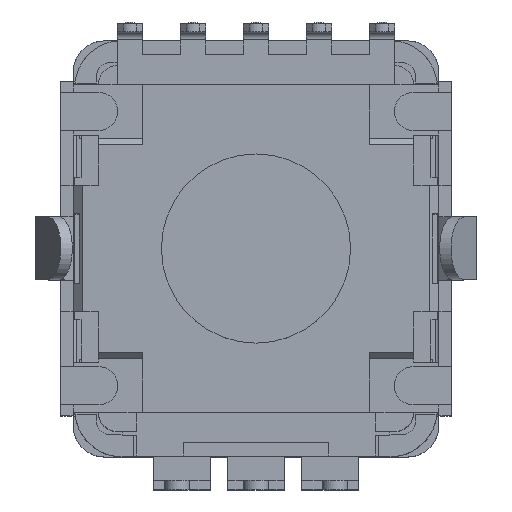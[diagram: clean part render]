
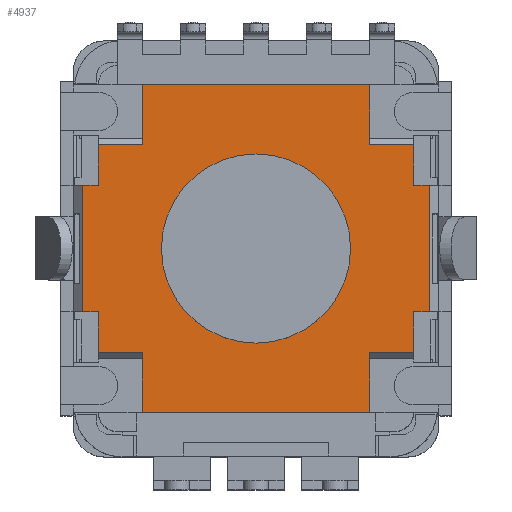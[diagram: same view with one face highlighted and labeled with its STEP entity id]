
A CAD part, top view. The second image highlights one B-rep face of the part: STEP entity #4937.
In plain terms, the highlighted planar face has unit normal (0, 0, 1).
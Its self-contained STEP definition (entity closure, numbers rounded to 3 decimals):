
#4453=CARTESIAN_POINT('',(-3.,0.,3.2));
#4454=VERTEX_POINT('',#4453);
#4455=CARTESIAN_POINT('',(0.,0.,3.2));
#4456=DIRECTION('',(0.0,0.0,-1.0));
#4457=DIRECTION('',(1.0,0.0,0.0));
#4458=AXIS2_PLACEMENT_3D('',#4455,#4456,#4457);
#4459=CIRCLE('',#4458,3.);
#4460=EDGE_CURVE('',#4454,#4454,#4459,.T.);
#4497=CARTESIAN_POINT('',(-5.5,-2.,3.2));
#4498=VERTEX_POINT('',#4497);
#4505=CARTESIAN_POINT('',(-5.5,2.,3.2));
#4506=VERTEX_POINT('',#4505);
#4507=CARTESIAN_POINT('',(-5.5,-2.,3.2));
#4508=DIRECTION('',(0.0,1.0,0.0));
#4509=VECTOR('',#4508,4.);
#4510=LINE('',#4507,#4509);
#4511=EDGE_CURVE('',#4498,#4506,#4510,.T.);
#4645=CARTESIAN_POINT('',(5.5,-2.,3.2));
#4646=VERTEX_POINT('',#4645);
#4695=CARTESIAN_POINT('',(5.5,2.,3.2));
#4696=VERTEX_POINT('',#4695);
#4703=CARTESIAN_POINT('',(5.5,2.,3.2));
#4704=DIRECTION('',(0.0,-1.0,0.0));
#4705=VECTOR('',#4704,4.0);
#4706=LINE('',#4703,#4705);
#4707=EDGE_CURVE('',#4696,#4646,#4706,.T.);
#4765=CARTESIAN_POINT('',(5.,-2.,3.2));
#4766=VERTEX_POINT('',#4765);
#4767=CARTESIAN_POINT('',(5.5,-2.,3.2));
#4768=DIRECTION('',(-1.0,0.0,0.0));
#4769=VECTOR('',#4768,0.5);
#4770=LINE('',#4767,#4769);
#4771=EDGE_CURVE('',#4646,#4766,#4770,.T.);
#4792=CARTESIAN_POINT('',(0.,0.,3.2));
#4793=DIRECTION('',(0.0,0.0,-1.0));
#4794=DIRECTION('',(1.0,0.0,0.0));
#4795=AXIS2_PLACEMENT_3D('',#4792,#4793,#4794);
#4796=PLANE('',#4795);
#4797=ORIENTED_EDGE('',*,*,#4511,.F.);
#4798=CARTESIAN_POINT('',(-5.,-2.,3.2));
#4799=VERTEX_POINT('',#4798);
#4800=CARTESIAN_POINT('',(-5.,-2.,3.2));
#4801=DIRECTION('',(-1.0,0.0,0.0));
#4802=VECTOR('',#4801,0.5);
#4803=LINE('',#4800,#4802);
#4804=EDGE_CURVE('',#4799,#4498,#4803,.T.);
#4805=ORIENTED_EDGE('',*,*,#4804,.F.);
#4806=CARTESIAN_POINT('',(-5.,-3.3,3.2));
#4807=VERTEX_POINT('',#4806);
#4808=CARTESIAN_POINT('',(-5.,-3.3,3.2));
#4809=DIRECTION('',(0.0,1.0,0.0));
#4810=VECTOR('',#4809,1.3);
#4811=LINE('',#4808,#4810);
#4812=EDGE_CURVE('',#4807,#4799,#4811,.T.);
#4813=ORIENTED_EDGE('',*,*,#4812,.F.);
#4814=CARTESIAN_POINT('',(-3.6,-3.3,3.2));
#4815=VERTEX_POINT('',#4814);
#4816=CARTESIAN_POINT('',(-3.6,-3.3,3.2));
#4817=DIRECTION('',(-1.0,0.0,0.0));
#4818=VECTOR('',#4817,1.4);
#4819=LINE('',#4816,#4818);
#4820=EDGE_CURVE('',#4815,#4807,#4819,.T.);
#4821=ORIENTED_EDGE('',*,*,#4820,.F.);
#4822=CARTESIAN_POINT('',(-3.6,-5.2,3.2));
#4823=VERTEX_POINT('',#4822);
#4824=CARTESIAN_POINT('',(-3.6,-5.2,3.2));
#4825=DIRECTION('',(0.0,1.0,0.0));
#4826=VECTOR('',#4825,1.9);
#4827=LINE('',#4824,#4826);
#4828=EDGE_CURVE('',#4823,#4815,#4827,.T.);
#4829=ORIENTED_EDGE('',*,*,#4828,.F.);
#4830=CARTESIAN_POINT('',(3.6,-5.2,3.2));
#4831=VERTEX_POINT('',#4830);
#4832=CARTESIAN_POINT('',(3.6,-5.2,3.2));
#4833=DIRECTION('',(-1.0,0.0,0.0));
#4834=VECTOR('',#4833,7.2);
#4835=LINE('',#4832,#4834);
#4836=EDGE_CURVE('',#4831,#4823,#4835,.T.);
#4837=ORIENTED_EDGE('',*,*,#4836,.F.);
#4838=CARTESIAN_POINT('',(3.6,-3.3,3.2));
#4839=VERTEX_POINT('',#4838);
#4840=CARTESIAN_POINT('',(3.6,-3.3,3.2));
#4841=DIRECTION('',(0.0,-1.0,0.0));
#4842=VECTOR('',#4841,1.9);
#4843=LINE('',#4840,#4842);
#4844=EDGE_CURVE('',#4839,#4831,#4843,.T.);
#4845=ORIENTED_EDGE('',*,*,#4844,.F.);
#4846=CARTESIAN_POINT('',(5.,-3.3,3.2));
#4847=VERTEX_POINT('',#4846);
#4848=CARTESIAN_POINT('',(5.,-3.3,3.2));
#4849=DIRECTION('',(-1.0,0.0,0.0));
#4850=VECTOR('',#4849,1.4);
#4851=LINE('',#4848,#4850);
#4852=EDGE_CURVE('',#4847,#4839,#4851,.T.);
#4853=ORIENTED_EDGE('',*,*,#4852,.F.);
#4854=CARTESIAN_POINT('',(5.,-2.,3.2));
#4855=DIRECTION('',(0.0,-1.0,0.0));
#4856=VECTOR('',#4855,1.3);
#4857=LINE('',#4854,#4856);
#4858=EDGE_CURVE('',#4766,#4847,#4857,.T.);
#4859=ORIENTED_EDGE('',*,*,#4858,.F.);
#4860=ORIENTED_EDGE('',*,*,#4771,.F.);
#4861=ORIENTED_EDGE('',*,*,#4707,.F.);
#4862=CARTESIAN_POINT('',(5.,2.,3.2));
#4863=VERTEX_POINT('',#4862);
#4864=CARTESIAN_POINT('',(5.,2.,3.2));
#4865=DIRECTION('',(1.0,0.0,0.0));
#4866=VECTOR('',#4865,0.5);
#4867=LINE('',#4864,#4866);
#4868=EDGE_CURVE('',#4863,#4696,#4867,.T.);
#4869=ORIENTED_EDGE('',*,*,#4868,.F.);
#4870=CARTESIAN_POINT('',(5.,3.3,3.2));
#4871=VERTEX_POINT('',#4870);
#4872=CARTESIAN_POINT('',(5.,3.3,3.2));
#4873=DIRECTION('',(0.0,-1.0,0.0));
#4874=VECTOR('',#4873,1.3);
#4875=LINE('',#4872,#4874);
#4876=EDGE_CURVE('',#4871,#4863,#4875,.T.);
#4877=ORIENTED_EDGE('',*,*,#4876,.F.);
#4878=CARTESIAN_POINT('',(3.6,3.3,3.2));
#4879=VERTEX_POINT('',#4878);
#4880=CARTESIAN_POINT('',(3.6,3.3,3.2));
#4881=DIRECTION('',(1.0,0.0,0.0));
#4882=VECTOR('',#4881,1.4);
#4883=LINE('',#4880,#4882);
#4884=EDGE_CURVE('',#4879,#4871,#4883,.T.);
#4885=ORIENTED_EDGE('',*,*,#4884,.F.);
#4886=CARTESIAN_POINT('',(3.6,5.2,3.2));
#4887=VERTEX_POINT('',#4886);
#4888=CARTESIAN_POINT('',(3.6,5.2,3.2));
#4889=DIRECTION('',(0.0,-1.0,0.0));
#4890=VECTOR('',#4889,1.9);
#4891=LINE('',#4888,#4890);
#4892=EDGE_CURVE('',#4887,#4879,#4891,.T.);
#4893=ORIENTED_EDGE('',*,*,#4892,.F.);
#4894=CARTESIAN_POINT('',(-3.6,5.2,3.2));
#4895=VERTEX_POINT('',#4894);
#4896=CARTESIAN_POINT('',(-3.6,5.2,3.2));
#4897=DIRECTION('',(1.0,0.0,0.0));
#4898=VECTOR('',#4897,7.2);
#4899=LINE('',#4896,#4898);
#4900=EDGE_CURVE('',#4895,#4887,#4899,.T.);
#4901=ORIENTED_EDGE('',*,*,#4900,.F.);
#4902=CARTESIAN_POINT('',(-3.6,3.3,3.2));
#4903=VERTEX_POINT('',#4902);
#4904=CARTESIAN_POINT('',(-3.6,3.3,3.2));
#4905=DIRECTION('',(0.0,1.0,0.0));
#4906=VECTOR('',#4905,1.9);
#4907=LINE('',#4904,#4906);
#4908=EDGE_CURVE('',#4903,#4895,#4907,.T.);
#4909=ORIENTED_EDGE('',*,*,#4908,.F.);
#4910=CARTESIAN_POINT('',(-5.,3.3,3.2));
#4911=VERTEX_POINT('',#4910);
#4912=CARTESIAN_POINT('',(-5.0,3.3,3.2));
#4913=DIRECTION('',(1.0,0.0,0.0));
#4914=VECTOR('',#4913,1.4);
#4915=LINE('',#4912,#4914);
#4916=EDGE_CURVE('',#4911,#4903,#4915,.T.);
#4917=ORIENTED_EDGE('',*,*,#4916,.F.);
#4918=CARTESIAN_POINT('',(-5.0,2.,3.2));
#4919=VERTEX_POINT('',#4918);
#4920=CARTESIAN_POINT('',(-5.0,2.,3.2));
#4921=DIRECTION('',(0.0,1.0,0.0));
#4922=VECTOR('',#4921,1.3);
#4923=LINE('',#4920,#4922);
#4924=EDGE_CURVE('',#4919,#4911,#4923,.T.);
#4925=ORIENTED_EDGE('',*,*,#4924,.F.);
#4926=CARTESIAN_POINT('',(-5.5,2.,3.2));
#4927=DIRECTION('',(1.0,0.0,0.0));
#4928=VECTOR('',#4927,0.5);
#4929=LINE('',#4926,#4928);
#4930=EDGE_CURVE('',#4506,#4919,#4929,.T.);
#4931=ORIENTED_EDGE('',*,*,#4930,.F.);
#4932=EDGE_LOOP('',(#4797,#4805,#4813,#4821,#4829,#4837,#4845,#4853,#4859,#4860,#4861,#4869,#4877,#4885,#4893,#4901,#4909,#4917,#4925,#4931));
#4933=FACE_OUTER_BOUND('',#4932,.T.);
#4934=ORIENTED_EDGE('',*,*,#4460,.T.);
#4935=EDGE_LOOP('',(#4934));
#4936=FACE_BOUND('',#4935,.T.);
#4937=ADVANCED_FACE('',(#4933,#4936),#4796,.F.);
